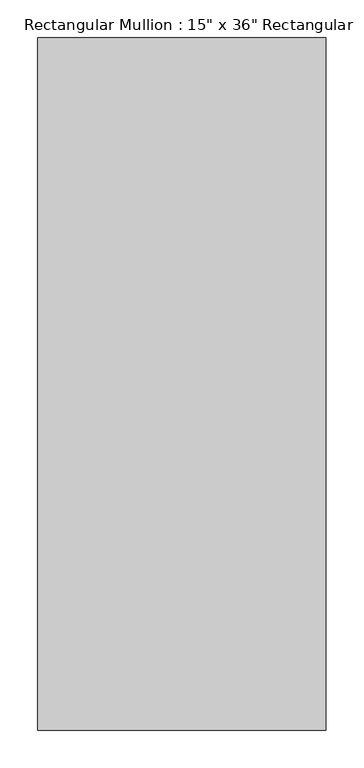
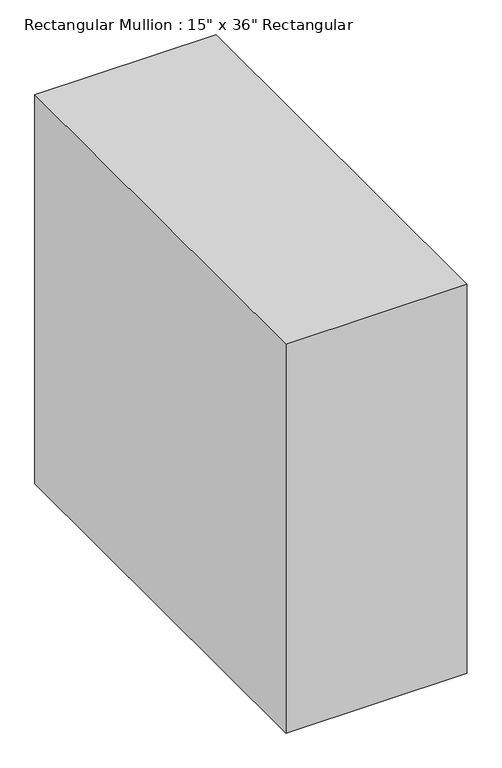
"""IFC4 building model written with IfcOpenShell, lengths in millimetres: member geometry."""

from ifc_helpers import new_model, si_unit, frame, origin, place, context, project, spatial, polyline, outline, extrude, source, transform, mapped, element, save


def member_dbf85a12(model_context):
    return source(origin(), model_context, "Body", "SweptSolid", [
        extrude(outline(polyline([(0.0, 850.9), (0.0, -63.5), (-381.0, -63.5), (-381.0, 850.9), (0.0, 850.9)])), frame((0.0, 0.0, -863.6), z_axis=(0.0, 0.0, 1.0), x_axis=(1.0, 0.0, 0.0)), (0.0, 0.0, 1.0), 863.6),
    ])


if __name__ == "__main__":
    model = new_model("IFC4")
    model_context = context("Model", 3, world=origin())
    ifc_project = project(units=[si_unit("LENGTHUNIT", "METRE", prefix="MILLI")], contexts=[model_context])
    site = spatial("IfcSite", under=ifc_project)
    building = spatial("IfcBuilding", under=site)
    placement = place(None, origin())
    member_shape = member_dbf85a12(model_context)
    element("IfcMember", 1, ObjectType="Rectangular Mullion : 15\" x 36\" Rectangular", at=placement, inside=building, context=model_context, shape_type="MappedRepresentation", body=[
        mapped(member_shape, transform((0.0, 0.0, 0.0), x_axis=(1.0, 0.0, 0.0), y_axis=(0.0, 1.0, 0.0), z_axis=(0.0, 0.0, 1.0))),
    ])
    save(model, "model.ifc")
